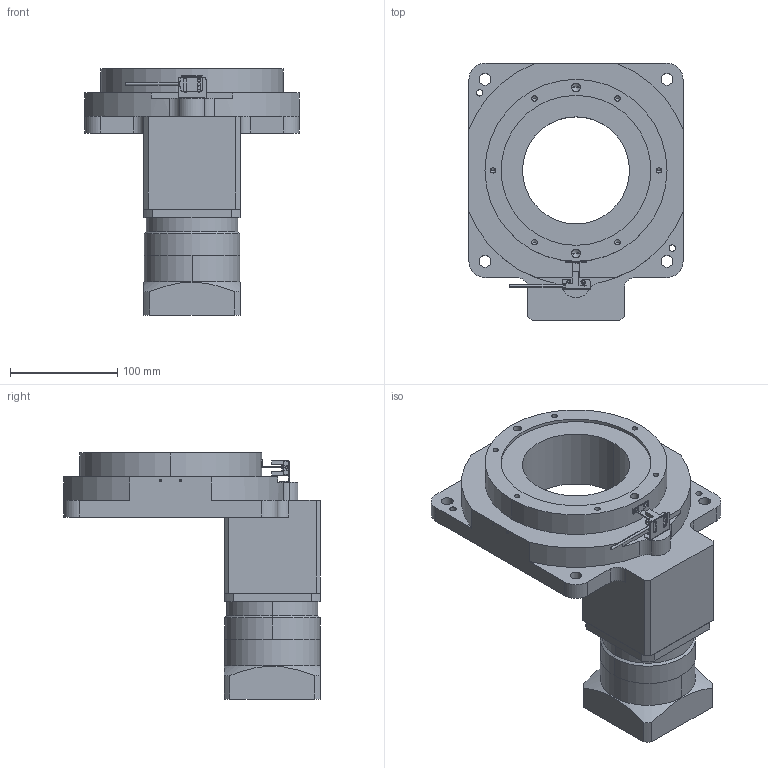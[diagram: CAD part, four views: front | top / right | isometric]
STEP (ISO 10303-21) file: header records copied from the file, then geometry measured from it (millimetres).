
FILE_DESCRIPTION (( 'STEP AP203' ), '1' );
FILE_NAME ('RTN200-30K-19-70-90-M6(¼Ó90ÐÐÐÇ).STEP', '2024-05-21T10:25:15', ( '' ), ( '' ), 'SwSTEP 2.0', 'SolidWorks 2023', '' );
FILE_SCHEMA (( 'CONFIG_CONTROL_DESIGN' ));
Length unit declared in the file: millimetre
Products named in the file (1): RTN200-30K-19-70-90-M6(加90行星)
Bounding box: 200 x 240 x 230 mm (x, y, z)
Volume: 2626110 mm3; surface area: 248098.1 mm2
Topology: 6 solids, 8 shells, 362 faces, 925 edges, 570 vertices
Faces by surface type: cylinder 163, plane 135, cone 58, torus 6
Entity records: 11264 total; most frequent: CARTESIAN_POINT 2325, DIRECTION 1938, ORIENTED_EDGE 1750, EDGE_CURVE 875, AXIS2_PLACEMENT_3D 708, VERTEX_POINT 570, LINE 522, VECTOR 522
